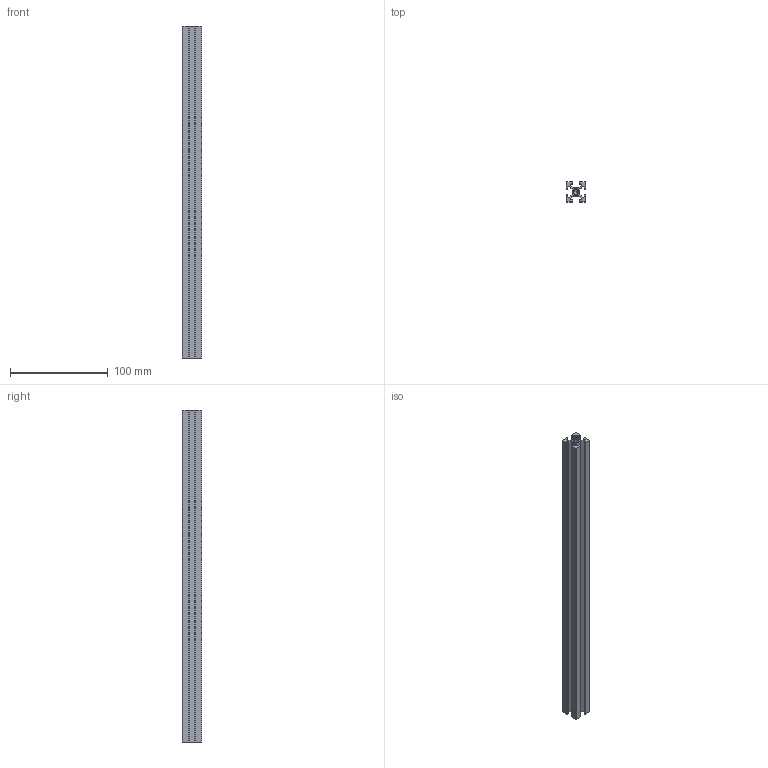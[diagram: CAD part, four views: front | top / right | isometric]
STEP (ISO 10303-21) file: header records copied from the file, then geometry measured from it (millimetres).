
FILE_DESCRIPTION (( 'STEP AP203' ), '1' );
FILE_NAME ('profile alum 20x20.STEP', '2025-10-13T10:20:16', ( '' ), ( '' ), 'SwSTEP 2.0', 'SolidWorks 2023', '' );
FILE_SCHEMA (( 'CONFIG_CONTROL_DESIGN' ));
Length unit declared in the file: millimetre
Products named in the file (1): profile alum 20x20
Bounding box: 20 x 20 x 340 mm (x, y, z)
Volume: 64659.5 mm3; surface area: 51844.1 mm2
Topology: 1 solids, 1 shells, 82 faces, 232 edges, 150 vertices
Faces by surface type: plane 62, cylinder 12, cone 8
Entity records: 2669 total; most frequent: CARTESIAN_POINT 461, ORIENTED_EDGE 456, DIRECTION 422, EDGE_CURVE 228, VECTOR 200, LINE 200, VERTEX_POINT 150, AXIS2_PLACEMENT_3D 111
